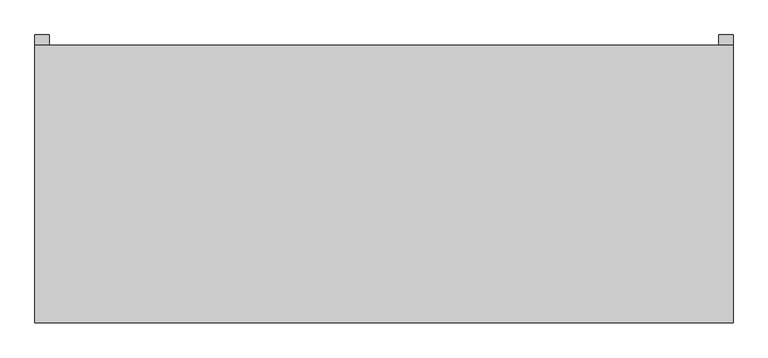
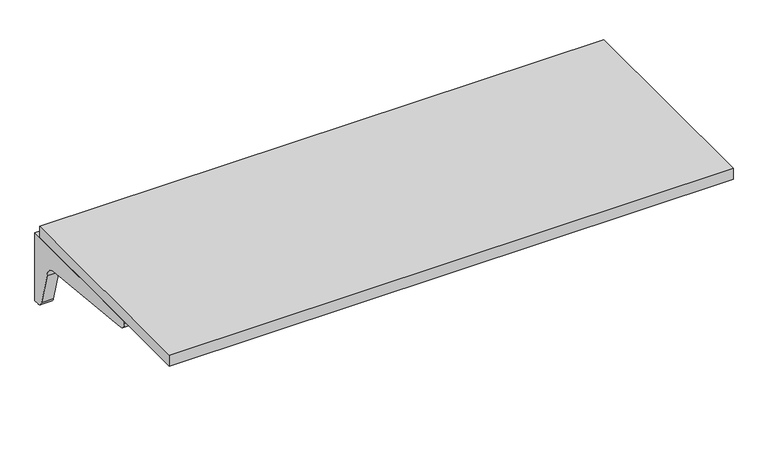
"""IFC4 building model written with IfcOpenShell, lengths in millimetres: furniture geometry."""

from ifc_helpers import new_model, si_unit, point, frame, frame_2d, origin, place, context, project, spatial, polyline, circle_curve, trimmed, segment, composite_curve, outline, extrude, source, transform, mapped, element, save


def furniture_a96273da(model_context):
    return source(origin(), model_context, "Body", "SweptSolid", [
        extrude(outline(composite_curve([segment(polyline([(314.325, 704.85), (314.325, 511.175), (301.625, 511.175)]), True, "CONTINUOUS"), segment(trimmed(circle_curve(frame_2d((299.3081081, 528.3371622)), 17.3178462), [point((301.625, 511.175))], [point((282.575, 523.875))], False, "CARTESIAN"), True, "CONTINUOUS"), segment(polyline([(282.575, 523.875), (257.175, 615.95)]), True, "CONTINUOUS"), segment(trimmed(circle_curve(frame_2d((221.8170455, 612.3420455)), 35.5415572), [point((257.175, 615.95))], [point((225.425, 647.7))], True, "CARTESIAN"), True, "CONTINUOUS"), segment(polyline([(225.425, 647.7), (-85.725, 679.45)]), True, "CONTINUOUS"), segment(trimmed(circle_curve(frame_2d((-85.725, 698.5)), 19.05), [point((-85.725, 679.45))], [point((-104.775, 698.5))], False, "CARTESIAN"), True, "CONTINUOUS"), segment(polyline([(-104.775, 698.5), (-104.775, 704.85), (314.325, 704.85)]), True, "CONTINUOUS")], self_intersect=False)), frame((730.25, 0.0, 0.0), z_axis=(1.0, 0.0, 0.0), x_axis=(0.0, 1.0, 0.0)), (0.0, 0.0, 1.0), 31.75),
        extrude(outline(composite_curve([segment(polyline([(314.325, 704.85), (314.325, 511.175), (301.625, 511.175)]), True, "CONTINUOUS"), segment(trimmed(circle_curve(frame_2d((299.3081081, 528.3371622)), 17.3178462), [point((301.625, 511.175))], [point((282.575, 523.875))], False, "CARTESIAN"), True, "CONTINUOUS"), segment(polyline([(282.575, 523.875), (257.175, 615.95)]), True, "CONTINUOUS"), segment(trimmed(circle_curve(frame_2d((221.8170455, 612.3420455)), 35.5415572), [point((257.175, 615.95))], [point((225.425, 647.7))], True, "CARTESIAN"), True, "CONTINUOUS"), segment(polyline([(225.425, 647.7), (-85.725, 679.45)]), True, "CONTINUOUS"), segment(trimmed(circle_curve(frame_2d((-85.725, 698.5)), 19.05), [point((-85.725, 679.45))], [point((-104.775, 698.5))], False, "CARTESIAN"), True, "CONTINUOUS"), segment(polyline([(-104.775, 698.5), (-104.775, 704.85), (314.325, 704.85)]), True, "CONTINUOUS")], self_intersect=False)), frame((-762.0, 0.0, 0.0), z_axis=(1.0, 0.0, 0.0), x_axis=(0.0, 1.0, 0.0)), (0.0, 0.0, 1.0), 31.75),
        extrude(outline(polyline([(-762.0, 292.1), (762.0, 292.1), (762.0, -314.325), (-762.0, -314.325), (-762.0, 292.1)])), frame((0.0, 0.0, 704.85), z_axis=(0.0, 0.0, 1.0), x_axis=(1.0, 0.0, 0.0)), (0.0, 0.0, 1.0), 31.75),
    ])


if __name__ == "__main__":
    model = new_model("IFC4")
    model_context = context("Model", 3, world=origin())
    ifc_project = project(units=[si_unit("LENGTHUNIT", "METRE", prefix="MILLI")], contexts=[model_context])
    site = spatial("IfcSite", under=ifc_project)
    building = spatial("IfcBuilding", under=site)
    placement = place(None, origin())
    furniture_shape = furniture_a96273da(model_context)
    element("IfcFurniture", 1, ObjectType="HermanMiller_ActionOffice_A2310_Sq-EdgeRectangularWorkSurface : 24\"D x 60\"W", at=placement, inside=building, context=model_context, shape_type="MappedRepresentation", body=[
        mapped(furniture_shape, transform((0.0, 0.0, 0.0), x_axis=(1.0, 0.0, 0.0), y_axis=(0.0, 1.0, 0.0), z_axis=(0.0, 0.0, 1.0))),
    ])
    save(model, "model.ifc")
